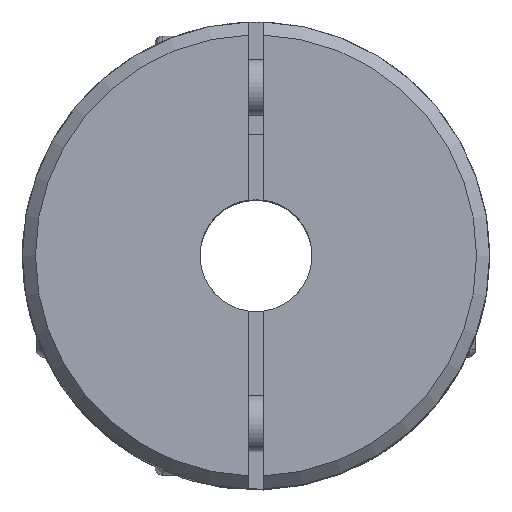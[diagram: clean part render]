
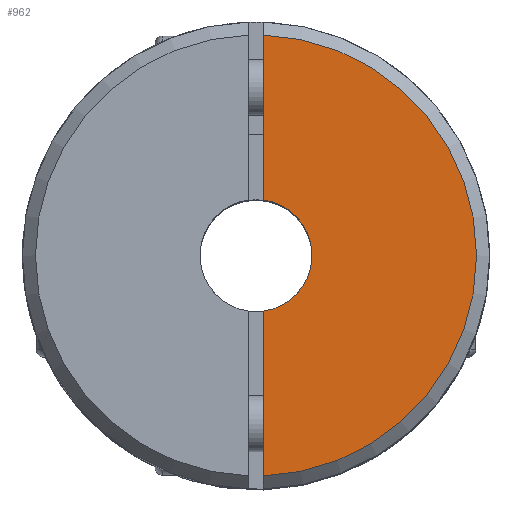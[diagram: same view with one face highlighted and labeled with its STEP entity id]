
A CAD part, top view. The second image highlights one B-rep face of the part: STEP entity #962.
In plain terms, the highlighted planar face has unit normal (0, 0, 1).
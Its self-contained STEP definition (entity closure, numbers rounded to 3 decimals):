
#136 = PLANE ( 'NONE',  #2034 ) ;
#516 = LINE ( 'NONE', #2936, #924 ) ;
#735 = VERTEX_POINT ( 'NONE', #3097 ) ;
#741 = CARTESIAN_POINT ( 'NONE',  ( 0.4, 11.793, 15.5 ) ) ;
#843 = CIRCLE ( 'NONE', #3375, 3. ) ;
#924 = VECTOR ( 'NONE', #2963, 1000. ) ;
#938 = CIRCLE ( 'NONE', #2821, 11.8 ) ;
#962 = ADVANCED_FACE ( 'NONE', ( #2731 ), #136, .F. ) ;
#969 = ORIENTED_EDGE ( 'NONE', *, *, #3333, .T. ) ;
#999 = DIRECTION ( 'NONE',  ( 0., 0., 1. ) ) ;
#1177 = CARTESIAN_POINT ( 'NONE',  ( 0., 3., 15.5 ) ) ;
#1357 = DIRECTION ( 'NONE',  ( 0., 0., -1. ) ) ;
#1363 = CARTESIAN_POINT ( 'NONE',  ( 0.4, 15., 15.5 ) ) ;
#1491 = VECTOR ( 'NONE', #4428, 1000. ) ;
#1636 = ORIENTED_EDGE ( 'NONE', *, *, #1887, .T. ) ;
#1833 = VERTEX_POINT ( 'NONE', #3048 ) ;
#1887 = EDGE_CURVE ( 'NONE', #2190, #1833, #516, .T. ) ;
#1977 = DIRECTION ( 'NONE',  ( 0., -1., 0. ) ) ;
#2034 = AXIS2_PLACEMENT_3D ( 'NONE', #1177, #1357, #2437 ) ;
#2190 = VERTEX_POINT ( 'NONE', #3367 ) ;
#2406 = DIRECTION ( 'NONE',  ( 0., 0., 1. ) ) ;
#2430 = DIRECTION ( 'NONE',  ( 0., 1., 0. ) ) ;
#2437 = DIRECTION ( 'NONE',  ( 0., 1., 0. ) ) ;
#2731 = FACE_OUTER_BOUND ( 'NONE', #3109, .T. ) ;
#2821 = AXIS2_PLACEMENT_3D ( 'NONE', #3156, #2406, #2430 ) ;
#2908 = ORIENTED_EDGE ( 'NONE', *, *, #4127, .T. ) ;
#2936 = CARTESIAN_POINT ( 'NONE',  ( 0.4, 15., 15.5 ) ) ;
#2963 = DIRECTION ( 'NONE',  ( 0., -1., 0. ) ) ;
#3046 = EDGE_CURVE ( 'NONE', #2190, #735, #843, .T. ) ;
#3048 = CARTESIAN_POINT ( 'NONE',  ( 0.4, -11.793, 15.5 ) ) ;
#3097 = CARTESIAN_POINT ( 'NONE',  ( 0.4, 2.973, 15.5 ) ) ;
#3109 = EDGE_LOOP ( 'NONE', ( #1636, #2908, #969, #4182 ) ) ;
#3156 = CARTESIAN_POINT ( 'NONE',  ( 0., 0., 15.5 ) ) ;
#3333 = EDGE_CURVE ( 'NONE', #4344, #735, #4143, .T. ) ;
#3367 = CARTESIAN_POINT ( 'NONE',  ( 0.4, -2.973, 15.5 ) ) ;
#3375 = AXIS2_PLACEMENT_3D ( 'NONE', #4099, #999, #1977 ) ;
#4099 = CARTESIAN_POINT ( 'NONE',  ( 0., 0., 15.5 ) ) ;
#4127 = EDGE_CURVE ( 'NONE', #1833, #4344, #938, .T. ) ;
#4143 = LINE ( 'NONE', #1363, #1491 ) ;
#4182 = ORIENTED_EDGE ( 'NONE', *, *, #3046, .F. ) ;
#4344 = VERTEX_POINT ( 'NONE', #741 ) ;
#4428 = DIRECTION ( 'NONE',  ( 0., -1., 0. ) ) ;
